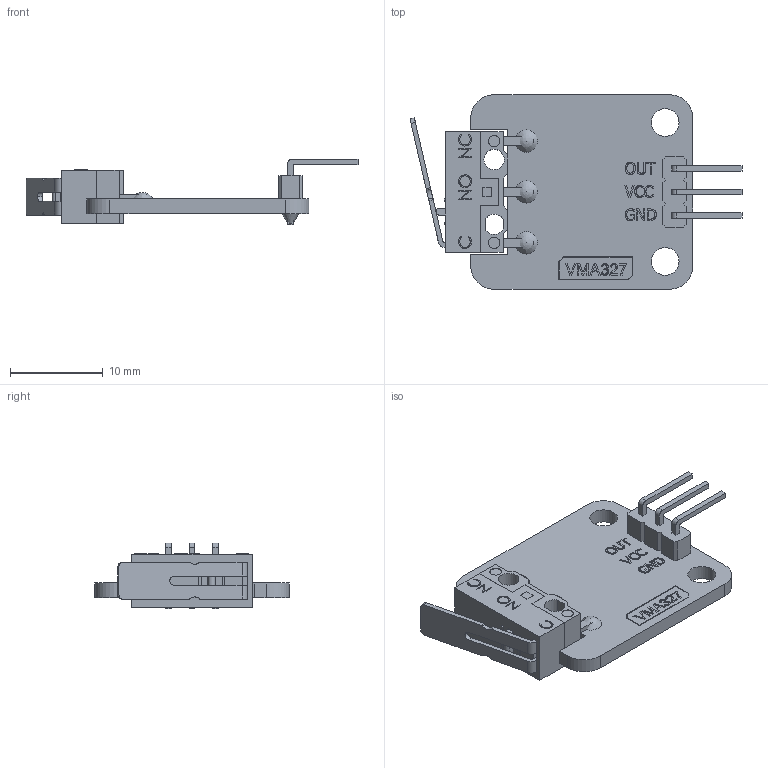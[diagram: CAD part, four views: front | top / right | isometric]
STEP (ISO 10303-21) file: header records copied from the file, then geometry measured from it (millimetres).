
FILE_DESCRIPTION(/* description */ (''),/* implementation_level */ '2;1');
FILE_NAME(/* name */ 'D:\Documenten\Inventor\Project files\Strijkkralen sorteermachine\VMA327_limit_switch.stp',/* time_stamp */ '2023-02-01T21:45:35+01:00',/* author */ ('Gebruiker'),/* organization */ (''),/* preprocessor_version */ 'ST-DEVELOPER v18',/* originating_system */ 'Autodesk Inventor 2020',/* authorisation */ '');
FILE_SCHEMA (('AUTOMOTIVE_DESIGN { 1 0 10303 214 3 1 1 }'));
Length unit declared in the file: millimetre
Products named in the file (6): VMA327_limit_switch; VMA327_PCB; Limit_Switch; Haakse_PCB_connector; Soldeerpunt; Soldeerdruppel
Assembly tree (9 placements, depth 2):
  VMA327_limit_switch
    VMA327_PCB
    Limit_Switch
    Haakse_PCB_connector
    Soldeerpunt  x3
    Soldeerdruppel  x3
Bounding box: 35.86 x 21 x 7.1 mm (x, y, z)
Volume: 1218.1 mm3; surface area: 1978.3 mm2
Topology: 10 solids, 10 shells, 622 faces, 1658 edges, 1112 vertices
Faces by surface type: plane 410, bspline 166, cylinder 43, cone 3
Full cylindrical faces by diameter (mm): 0.99 x3, 1 x6, 1.25 x4, 2.2 x1, 3 x2
Entity records: 23548 total; most frequent: CARTESIAN_POINT 8615, ORIENTED_EDGE 3258, DIRECTION 2317, EDGE_CURVE 1629, LINE 1207, VECTOR 1207, VERTEX_POINT 1090, EDGE_LOOP 685
